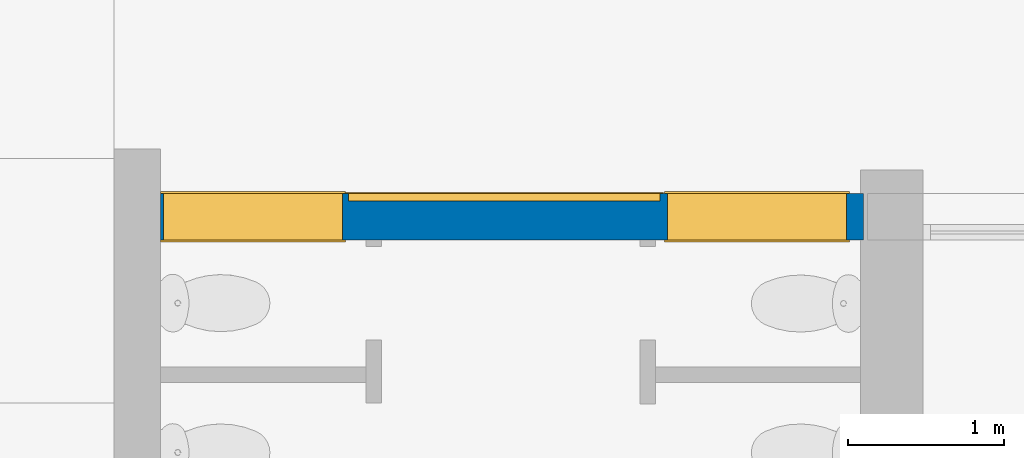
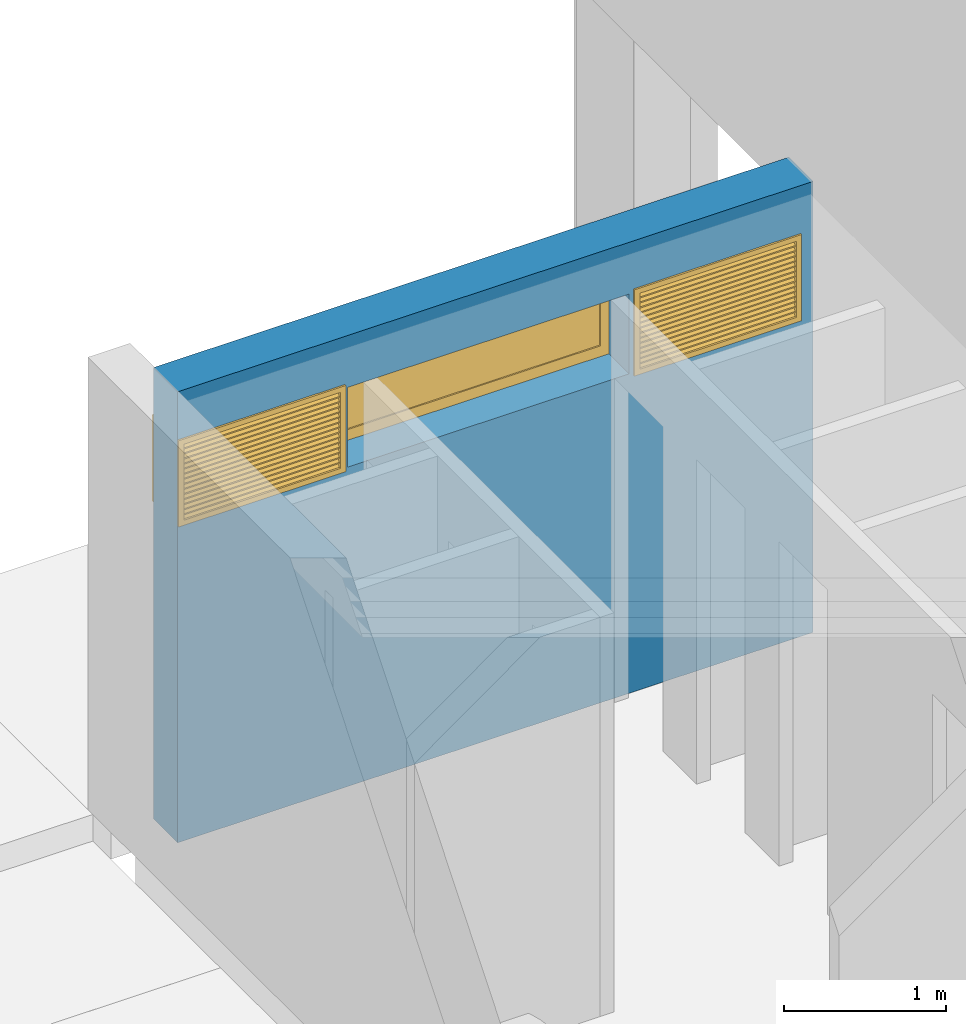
# One storey, part 80 of 117: 3 windows, 1 wall, 3 openings.
"""IFC4 building model written with IfcOpenShell, lengths in metres."""

from ifc_helpers import new_model, entity, si_unit, converted_unit, derived_unit, direction, frame, origin, place, context, subcontext, project, spatial, indexed_curve, outline, extrude, polygons, source, transform, mapped, material, constituent, constituent_set, type_object, type_shapes, element, fill, save


model = new_model("IFC4")

# Units and contexts
model_context = context("Model", 3, precision=1e-05, world=origin(), true_north=direction((6.123031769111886e-17, 1.0)))
body_context = subcontext(model_context, "Body", "Model", "MODEL_VIEW")
ifc_project = project(units=[si_unit("LENGTHUNIT", "METRE"), si_unit("AREAUNIT", "SQUARE_METRE"), si_unit("VOLUMEUNIT", "CUBIC_METRE"), converted_unit("PLANEANGLEUNIT", "DEGREE", entity("IfcRatioMeasure", 0.017453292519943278), si_unit("PLANEANGLEUNIT", "RADIAN"), dimensions=[0, 0, 0, 0, 0, 0, 0]), si_unit("MASSUNIT", "GRAM", prefix="KILO"), derived_unit("MASSDENSITYUNIT", [(si_unit("MASSUNIT", "GRAM", prefix="KILO"), 1), (si_unit("LENGTHUNIT", "METRE"), -3)]), derived_unit("MOMENTOFINERTIAUNIT", [(si_unit("LENGTHUNIT", "METRE"), 4)]), si_unit("TIMEUNIT", "SECOND"), si_unit("FREQUENCYUNIT", "HERTZ"), si_unit("THERMODYNAMICTEMPERATUREUNIT", "DEGREE_CELSIUS"), derived_unit("THERMALTRANSMITTANCEUNIT", [(si_unit("MASSUNIT", "GRAM", prefix="KILO"), 1), (si_unit("THERMODYNAMICTEMPERATUREUNIT", "KELVIN"), -1), (si_unit("TIMEUNIT", "SECOND"), -3)]), derived_unit("VOLUMETRICFLOWRATEUNIT", [(si_unit("LENGTHUNIT", "METRE"), 3), (si_unit("TIMEUNIT", "SECOND"), -1)]), derived_unit("MASSFLOWRATEUNIT", [(si_unit("MASSUNIT", "GRAM", prefix="KILO"), 1), (si_unit("TIMEUNIT", "SECOND"), -1)]), derived_unit("ROTATIONALFREQUENCYUNIT", [(si_unit("TIMEUNIT", "SECOND"), -1)]), si_unit("ELECTRICCURRENTUNIT", "AMPERE"), si_unit("ELECTRICVOLTAGEUNIT", "VOLT"), si_unit("POWERUNIT", "WATT"), si_unit("FORCEUNIT", "NEWTON", prefix="KILO"), si_unit("ILLUMINANCEUNIT", "LUX"), si_unit("LUMINOUSFLUXUNIT", "LUMEN"), si_unit("LUMINOUSINTENSITYUNIT", "CANDELA"), derived_unit("USERDEFINED", [(si_unit("MASSUNIT", "GRAM", prefix="KILO"), -1), (si_unit("LENGTHUNIT", "METRE"), -2), (si_unit("TIMEUNIT", "SECOND"), 3), (si_unit("LUMINOUSFLUXUNIT", "LUMEN"), 1)]), derived_unit("SOUNDPOWERUNIT", [(si_unit("MASSUNIT", "GRAM", prefix="KILO"), 1), (si_unit("LENGTHUNIT", "METRE"), 2), (si_unit("TIMEUNIT", "SECOND"), -3)]), derived_unit("SOUNDPRESSUREUNIT", [(si_unit("MASSUNIT", "GRAM", prefix="KILO"), 1), (si_unit("LENGTHUNIT", "METRE"), -1), (si_unit("TIMEUNIT", "SECOND"), -2)]), derived_unit("LINEARVELOCITYUNIT", [(si_unit("LENGTHUNIT", "METRE"), 1), (si_unit("TIMEUNIT", "SECOND"), -1)]), si_unit("PRESSUREUNIT", "PASCAL"), derived_unit("USERDEFINED", [(si_unit("LENGTHUNIT", "METRE"), -2), (si_unit("MASSUNIT", "GRAM", prefix="KILO"), 1), (si_unit("TIMEUNIT", "SECOND"), -2)]), derived_unit("LINEARFORCEUNIT", [(si_unit("MASSUNIT", "GRAM", prefix="KILO"), 1), (si_unit("LENGTHUNIT", "METRE"), 1), (si_unit("TIMEUNIT", "SECOND"), -2), (si_unit("LENGTHUNIT", "METRE"), -1)]), derived_unit("PLANARFORCEUNIT", [(si_unit("MASSUNIT", "GRAM", prefix="KILO"), 1), (si_unit("LENGTHUNIT", "METRE"), 1), (si_unit("TIMEUNIT", "SECOND"), -2), (si_unit("LENGTHUNIT", "METRE"), -2)])], contexts=[model_context])

# Site, building, storey
site_placement = place(None, origin())
site = spatial("IfcSite", under=ifc_project, at=site_placement, Name="Superficie", CompositionType="ELEMENT")
building_placement = place(site_placement, origin())
building = spatial("IfcBuilding", under=site, at=building_placement, CompositionType="ELEMENT")
storey_placement = place(building_placement, origin())
storey = spatial("IfcBuildingStorey", under=building, at=storey_placement, Name="Nivel 0", CompositionType="ELEMENT", Elevation=0.0)

# Wall, openings, windows
ifc_material_1 = material(Name="Muro por defecto", Category="Varios")
wall_type = type_object("IfcWallType", Name="Muro básico:Por defecto - 30 cm", PredefinedType="STANDARD")
wall_placement = place(storey_placement, frame((-27.543200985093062, 12.720829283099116, 0.0)))
wall = element("IfcWall", 1, at=wall_placement, inside=storey, type_object=wall_type, material=ifc_material_1, Name="Muro básico:Por defecto - 30 cm", ObjectType="Muro básico:Por defecto - 30 cm", PredefinedType="NOTDEFINED", context=body_context, shape_type="Tessellation", body=[
    polygons([(-1.689169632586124e-17, -0.15000000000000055, 0.0), (1.3200000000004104, -0.15000000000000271, 0.0), (1.4200000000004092, -0.15000000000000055, 0.0), (3.07999999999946, -0.15000000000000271, 0.0), (3.179999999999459, -0.15000000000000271, 0.0), (4.517499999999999, -0.15000000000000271, 0.0), (4.517499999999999, -0.15000000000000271, 3.3891438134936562), (-1.689169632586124e-17, -0.15000000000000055, 3.3891438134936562), (3.2089499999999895, -0.15000000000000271, 2.3999999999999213), (1.208949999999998, -0.15000000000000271, 2.3999999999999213), (1.208949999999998, -0.15000000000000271, 2.9999999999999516), (3.208949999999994, -0.15000000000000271, 2.9999999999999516), (0.018949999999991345, -0.15000000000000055, 2.3999999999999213), (0.018949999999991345, -0.15000000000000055, 3.0095999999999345), (1.1689499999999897, -0.15000000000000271, 3.0095999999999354), (1.1689499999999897, -0.15000000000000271, 2.3999999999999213), (3.2589499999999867, -0.15000000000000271, 2.3999999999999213), (3.2589499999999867, -0.15000000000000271, 3.0095999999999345), (4.408949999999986, -0.15000000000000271, 3.0095999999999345), (4.408949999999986, -0.15000000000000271, 2.3999999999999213), (4.517499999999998, 0.14999999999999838, 0.0), (-9.476204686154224e-16, 0.15000000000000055, 0.0), (-9.476204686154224e-16, 0.15000000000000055, 3.3891438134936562), (4.517499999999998, 0.14999999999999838, 3.3891438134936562), (3.2089499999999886, 0.14999999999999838, 2.3999999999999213), (3.2089499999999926, 0.14999999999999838, 2.9999999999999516), (1.208949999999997, 0.14999999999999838, 2.9999999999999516), (1.208949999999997, 0.14999999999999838, 2.3999999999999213), (0.018949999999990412, 0.15000000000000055, 3.0095999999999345), (0.018949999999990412, 0.15000000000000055, 2.3999999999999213), (1.1689499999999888, 0.14999999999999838, 2.3999999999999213), (1.1689499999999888, 0.14999999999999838, 3.0095999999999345), (3.2589499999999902, 0.14999999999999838, 3.0095999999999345), (3.2589499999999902, 0.14999999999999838, 2.3999999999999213), (4.408949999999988, 0.14999999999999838, 2.3999999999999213), (4.408949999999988, 0.14999999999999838, 3.0095999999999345)], [[[1, 2, 3, 4, 5, 6, 7, 8], [9, 10, 11, 12], [13, 14, 15, 16], [17, 18, 19, 20]], [[21, 22, 23, 24], [25, 26, 27, 28], [29, 30, 31, 32], [33, 34, 35, 36]], [[6, 5, 4, 3, 2, 1, 22, 21]], [[7, 6, 21, 24]], [[8, 7, 24, 23]], [[1, 8, 23, 22]], [[26, 25, 9, 12]], [[27, 26, 12, 11]], [[28, 27, 11, 10]], [[25, 28, 10, 9]], [[29, 14, 13, 30]], [[30, 13, 16, 31]], [[31, 16, 15, 32]], [[14, 29, 32, 15]], [[17, 34, 33, 18]], [[34, 17, 20, 35]], [[35, 20, 19, 36]], [[18, 33, 36, 19]]], closed=True),
])
opening_1_placement = place(wall_placement, frame((3.2089499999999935, 0.14999999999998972, 2.3999999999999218)))
opening_1 = element("IfcOpeningElement", 2, at=opening_1_placement, cuts=wall, Name="Ventana simple fija con cubrejuntas interior:0.6 x 2.05mm 2:1", PredefinedType="OPENING", context=body_context, shape_type="SweptSolid", body=[
    extrude(outline(indexed_curve([(0.0, -5.8120598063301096e-30), (0.6000000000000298, -5.8120598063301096e-30), (0.6000000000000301, 1.9999999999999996), (0.0, 1.9999999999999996), (0.0, -5.8120598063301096e-30)], self_intersect=False)), frame((0.0, 0.0, 0.0), z_axis=(0.0, -1.0, 0.0), x_axis=(0.0, 0.0, 1.0)), (0.0, 0.0, 1.0), 0.30000000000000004),
])
opening_2_placement = place(wall_placement, frame((1.1689499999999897, 0.14999999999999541, 2.3999999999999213)))
opening_2 = element("IfcOpeningElement", 3, at=opening_2_placement, cuts=wall, Name="Deflector de ventilación simple:60 x 1.15mm 2:1", PredefinedType="OPENING", context=body_context, shape_type="SweptSolid", body=[
    extrude(outline(indexed_curve([(0.6096000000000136, 1.1499999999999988), (0.0, 1.1499999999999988), (0.0, -8.679644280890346e-30), (0.6096000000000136, -8.679644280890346e-30), (0.6096000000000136, 1.1499999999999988)], self_intersect=False)), frame((0.0, 0.0, 0.0), z_axis=(0.0, -1.0, 0.0), x_axis=(0.0, 0.0, 1.0)), (0.0, 0.0, 1.0), 0.30000000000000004),
])
opening_3_placement = place(wall_placement, frame((4.408949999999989, 0.14999999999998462, 2.3999999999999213)))
opening_3 = element("IfcOpeningElement", 4, at=opening_3_placement, cuts=wall, Name="Deflector de ventilación simple:60 x 1.15mm 2:1", PredefinedType="OPENING", context=body_context, shape_type="SweptSolid", body=[
    extrude(outline(indexed_curve([(0.6096000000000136, 1.1499999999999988), (0.0, 1.1499999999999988), (0.0, -8.786800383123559e-30), (0.6096000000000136, -8.786800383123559e-30), (0.6096000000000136, 1.1499999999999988)], self_intersect=False)), frame((0.0, 0.0, 0.0), z_axis=(0.0, -1.0, 0.0), x_axis=(0.0, 0.0, 1.0)), (0.0, 0.0, 1.0), 0.30000000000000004),
])
ifc_material_2 = material(Name="Madera - Abedul", Category="Madera")
window_type_1 = type_object("IfcWindowType", Name="Deflector de ventilación simple:60 x 1.15mm 2", PartitioningType="NOTDEFINED", PredefinedType="WINDOW", material=ifc_material_2)
shared_shape_1 = source(origin(), body_context, "Body", "SweptSolid", [
    extrude(outline(indexed_curve([(-0.593949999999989, -0.3237500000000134), (0.593949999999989, -0.3237500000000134), (0.593949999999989, 0.3237500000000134), (-0.593949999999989, 0.3237500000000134), (-0.593949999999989, -0.3237500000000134)], self_intersect=False), holes=[indexed_curve([(-0.5559500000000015, -0.28575000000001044), (-0.5559500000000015, 0.28575000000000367), (0.5559499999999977, 0.28575000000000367), (0.5559499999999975, -0.28575000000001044), (-0.5559500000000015, -0.28575000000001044)], self_intersect=False)]), frame((0.5750000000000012, 0.3000000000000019, 0.30480000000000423), z_axis=(0.0, 1.0, 0.0), x_axis=(1.0, 0.0, 0.0)), (0.0, 0.0, 1.0), 0.012999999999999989),
    extrude(outline(indexed_curve([(-0.3237500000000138, -0.5939499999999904), (0.3237500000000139, -0.5939499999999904), (0.3237500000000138, 0.5939499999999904), (-0.3237500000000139, 0.5939499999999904), (-0.3237500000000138, -0.5939499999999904)], self_intersect=False), holes=[indexed_curve([(-0.2857500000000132, -0.5559499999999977), (-0.2857500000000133, 0.5559499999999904), (0.28575000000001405, 0.5559499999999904), (0.28575000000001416, -0.5559499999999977), (-0.2857500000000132, -0.5559499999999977)], self_intersect=False)]), frame((0.5750000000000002, -0.012999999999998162, 0.30480000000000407), z_axis=(0.0, 1.0, 0.0), x_axis=(0.0, 0.0, -1.0)), (0.0, 0.0, 1.0), 0.012999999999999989),
    extrude(outline(indexed_curve([(-0.3048000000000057, -0.575), (0.3048000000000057, -0.575), (0.3048000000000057, 0.575), (-0.3048000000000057, 0.575), (-0.3048000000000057, -0.575)], self_intersect=False), holes=[indexed_curve([(-0.2857500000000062, -0.5559499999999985), (-0.2857500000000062, 0.5559500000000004), (0.2857500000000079, 0.5559500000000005), (0.2857500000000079, -0.5559499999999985), (-0.2857500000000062, -0.5559499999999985)], self_intersect=False)]), frame((0.5750000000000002, 0.0, 0.3048000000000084), z_axis=(0.0, 1.0, 0.0), x_axis=(0.0, 0.0, -1.0)), (0.0, 0.0, 1.0), 0.30000000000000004),
    extrude(outline(indexed_curve([(-0.0201083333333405, -0.02010833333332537), (0.030691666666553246, -0.020108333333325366), (0.0370416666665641, -0.013758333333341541), (-0.01375833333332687, -0.013758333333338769), (-0.013758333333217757, 0.03704166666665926), (-0.020108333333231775, 0.030691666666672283), (-0.0201083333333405, -0.02010833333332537)], self_intersect=False)), frame((0.019050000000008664, 0.2640789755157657, 0.5598335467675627), z_axis=(1.0, 0.0, 0.0), x_axis=(0.0, -0.7071067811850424, -0.7071067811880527)), (0.0, 0.0, 1.0), 1.1118999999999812),
    extrude(outline(indexed_curve([(-0.017991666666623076, -0.017991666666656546), (0.03280833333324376, -0.01799166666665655), (0.02645833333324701, -0.011641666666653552), (-0.011641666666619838, -0.01164166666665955), (-0.011641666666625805, 0.026458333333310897), (-0.017991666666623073, 0.032808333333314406), (-0.017991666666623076, -0.017991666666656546)], self_intersect=False)), frame((0.019050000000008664, 0.2640789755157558, 0.029526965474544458), z_axis=(1.0, 0.0, 0.0), x_axis=(0.0, -0.7071067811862, -0.7071067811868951)), (0.0, 0.0, 1.0), 1.1118999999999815),
    extrude(outline(indexed_curve([(-0.020108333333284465, -0.020108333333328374), (0.03069166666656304, -0.020108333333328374), (0.037041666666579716, -0.01375833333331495), (-0.01375833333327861, -0.013758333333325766), (-0.013758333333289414, 0.037041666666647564), (-0.020108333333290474, 0.03069166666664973), (-0.020108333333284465, -0.020108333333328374)], self_intersect=False)), frame((0.019050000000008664, 0.26407897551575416, 0.06463354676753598), z_axis=(1.0, 0.0, 0.0), x_axis=(0.0, -0.7071067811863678, -0.7071067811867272)), (0.0, 0.0, 1.0), 1.1118999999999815),
    extrude(outline(indexed_curve([(-0.02010833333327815, -0.020108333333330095), (0.030691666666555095, -0.020108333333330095), (0.037041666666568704, -0.013758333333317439), (-0.013758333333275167, -0.013758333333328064), (-0.01375833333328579, 0.03704166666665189), (-0.020108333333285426, 0.030691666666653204), (-0.02010833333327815, -0.020108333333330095)], self_intersect=False)), frame((0.019050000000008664, 0.2640789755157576, 0.1027335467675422), z_axis=(1.0, 0.0, 0.0), x_axis=(0.0, -0.7071067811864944, -0.7071067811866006)), (0.0, 0.0, 1.0), 1.1118999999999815),
    extrude(outline(indexed_curve([(-0.020108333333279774, -0.020108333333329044), (0.030691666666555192, -0.020108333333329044), (0.03704166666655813, -0.013758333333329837), (-0.013758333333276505, -0.013758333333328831), (-0.013758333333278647, 0.0370416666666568), (-0.02010833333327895, 0.030691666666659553), (-0.020108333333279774, -0.020108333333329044)], self_intersect=False)), frame((0.019050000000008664, 0.2640789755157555, 0.14083354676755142), z_axis=(1.0, 0.0, 0.0), x_axis=(0.0, -0.7071067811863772, -0.7071067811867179)), (0.0, 0.0, 1.0), 1.1118999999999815),
    extrude(outline(indexed_curve([(-0.020108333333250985, -0.020108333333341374), (0.030691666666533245, -0.020108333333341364), (0.03704166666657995, -0.013758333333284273), (-0.013758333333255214, -0.013758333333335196), (-0.0137583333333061, 0.03704166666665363), (-0.02010833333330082, 0.030691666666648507), (-0.020108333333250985, -0.020108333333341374)], self_intersect=False)), frame((0.019050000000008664, 0.26407897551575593, 0.17893354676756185), z_axis=(1.0, 0.0, 0.0), x_axis=(0.0, -0.7071067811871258, -0.7071067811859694)), (0.0, 0.0, 1.0), 1.1118999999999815),
    extrude(outline(indexed_curve([(-0.020108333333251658, -0.020108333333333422), (0.030691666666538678, -0.02010833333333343), (0.037041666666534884, -0.01375833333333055), (-0.013758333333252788, -0.013758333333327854), (-0.013758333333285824, 0.03704166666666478), (-0.020108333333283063, 0.030691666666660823), (-0.020108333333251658, -0.020108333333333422)], self_intersect=False)), frame((0.019050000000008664, 0.2640789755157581, 0.21703354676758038), z_axis=(1.0, 0.0, 0.0), x_axis=(0.0, -0.7071067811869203, -0.7071067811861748)), (0.0, 0.0, 1.0), 1.1118999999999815),
    extrude(outline(indexed_curve([(-0.020108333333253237, -0.020108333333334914), (0.030691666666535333, -0.020108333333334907), (0.037041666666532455, -0.013758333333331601), (-0.013758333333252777, -0.01375833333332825), (-0.013758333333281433, 0.03704166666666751), (-0.02010833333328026, 0.030691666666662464), (-0.020108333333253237, -0.020108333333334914)], self_intersect=False)), frame((0.019050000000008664, 0.26407897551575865, 0.2551335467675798), z_axis=(1.0, 0.0, 0.0), x_axis=(0.0, -0.7071067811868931, -0.707106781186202)), (0.0, 0.0, 1.0), 1.1118999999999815),
    extrude(outline(indexed_curve([(-0.020108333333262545, -0.02010833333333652), (0.030691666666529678, -0.02010833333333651), (0.037041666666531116, -0.01375833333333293), (-0.01375833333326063, -0.01375833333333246), (-0.013758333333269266, 0.03704166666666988), (-0.020108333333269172, 0.030691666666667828), (-0.020108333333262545, -0.02010833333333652)], self_intersect=False)), frame((0.019050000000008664, 0.2640789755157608, 0.29323354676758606), z_axis=(1.0, 0.0, 0.0), x_axis=(0.0, -0.7071067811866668, -0.7071067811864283)), (0.0, 0.0, 1.0), 1.1118999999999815),
    extrude(outline(indexed_curve([(-0.020108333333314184, -0.020108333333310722), (0.030691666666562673, -0.020108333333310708), (0.03704166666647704, -0.0137583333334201), (-0.013758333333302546, -0.013758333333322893), (-0.01375833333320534, 0.03704166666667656), (-0.02010833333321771, 0.03069166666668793), (-0.020108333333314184, -0.020108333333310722)], self_intersect=False)), frame((0.019050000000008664, 0.2640789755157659, 0.3313335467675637), z_axis=(1.0, 0.0, 0.0), x_axis=(0.0, -0.7071067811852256, -0.7071067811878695)), (0.0, 0.0, 1.0), 1.1118999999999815),
    extrude(outline(indexed_curve([(-0.020108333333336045, -0.02010833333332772), (0.030691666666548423, -0.02010833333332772), (0.03704166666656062, -0.013758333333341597), (-0.013758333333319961, -0.013758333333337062), (-0.01375833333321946, 0.03704166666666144), (-0.02010833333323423, 0.03069166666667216), (-0.020108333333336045, -0.02010833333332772)], self_intersect=False)), frame((0.019050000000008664, 0.2640789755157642, 0.3694335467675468), z_axis=(1.0, 0.0, 0.0), x_axis=(0.0, -0.7071067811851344, -0.7071067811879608)), (0.0, 0.0, 1.0), 1.1118999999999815),
    extrude(outline(indexed_curve([(-0.020108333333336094, -0.020108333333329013), (0.030691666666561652, -0.02010833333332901), (0.03704166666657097, -0.01375833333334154), (-0.013758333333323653, -0.013758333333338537), (-0.013758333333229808, 0.03704166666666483), (-0.020108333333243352, 0.03069166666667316), (-0.020108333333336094, -0.020108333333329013)], self_intersect=False)), frame((0.019050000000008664, 0.26407897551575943, 0.4075335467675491), z_axis=(1.0, 0.0, 0.0), x_axis=(0.0, -0.7071067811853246, -0.7071067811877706)), (0.0, 0.0, 1.0), 1.1118999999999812),
    extrude(outline(indexed_curve([(-0.02010833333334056, -0.020108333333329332), (0.03069166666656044, -0.020108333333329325), (0.03704166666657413, -0.013758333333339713), (-0.013758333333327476, -0.013758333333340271), (-0.013758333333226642, 0.037041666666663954), (-0.020108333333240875, 0.03069166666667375), (-0.02010833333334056, -0.020108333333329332)], self_intersect=False)), frame((0.019050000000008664, 0.26407897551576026, 0.4456335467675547), z_axis=(1.0, 0.0, 0.0), x_axis=(0.0, -0.70710678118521, -0.7071067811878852)), (0.0, 0.0, 1.0), 1.1118999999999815),
    extrude(outline(indexed_curve([(-0.020108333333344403, -0.02010833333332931), (0.030691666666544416, -0.02010833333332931), (0.037041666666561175, -0.013758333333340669), (-0.013758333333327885, -0.013758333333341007), (-0.013758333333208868, 0.03704166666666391), (-0.020108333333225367, 0.030691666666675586), (-0.020108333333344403, -0.02010833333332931)], self_intersect=False)), frame((0.019050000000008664, 0.26407897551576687, 0.4837335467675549), z_axis=(1.0, 0.0, 0.0), x_axis=(0.0, -0.7071067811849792, -0.707106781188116)), (0.0, 0.0, 1.0), 1.1118999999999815),
    extrude(outline(indexed_curve([(-0.02002144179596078, -0.020077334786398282), (0.030707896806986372, -0.020077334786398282), (0.03704903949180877, -0.013718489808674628), (-0.013750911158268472, -0.013789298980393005), (-0.013821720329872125, 0.037010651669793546), (-0.020162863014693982, 0.030651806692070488), (-0.02002144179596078, -0.020077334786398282)], self_intersect=False)), frame((0.019050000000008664, 0.26407897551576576, 0.5218168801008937), z_axis=(1.0, 0.0, 0.0), x_axis=(0.0, -0.7080917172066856, -0.7061204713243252)), (0.0, 0.0, 1.0), 1.1118999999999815),
])
type_shapes(window_type_1, [shared_shape_1])
window_1_placement = place(opening_3_placement, frame((0.0, 0.0, 0.0), z_axis=(0.0, 0.0, 1.0), x_axis=(-1.0, 0.0, 0.0)))
window_1 = element("IfcWindow", 5, at=window_1_placement, inside=storey, type_object=window_type_1, material=ifc_material_2, Name="Deflector de ventilación simple:60 x 1.15mm 2", ObjectType="Deflector de ventilación simple:60 x 1.15mm 2", OverallHeight=0.6096000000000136, OverallWidth=1.1499999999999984, PartitioningType="NOTDEFINED", PredefinedType="WINDOW", context=body_context, shape_type="MappedRepresentation", body=[
    mapped(shared_shape_1, transform((0.0, 0.0, 0.0), scale=1.0)),
])
fill(opening_3, window_1)
window_2_placement = place(opening_2_placement, frame((0.0, 0.0, 0.0), z_axis=(0.0, 0.0, 1.0), x_axis=(-1.0, 0.0, 0.0)))
window_2 = element("IfcWindow", 6, at=window_2_placement, inside=storey, type_object=window_type_1, material=ifc_material_2, Name="Deflector de ventilación simple:60 x 1.15mm 2", ObjectType="Deflector de ventilación simple:60 x 1.15mm 2", OverallHeight=0.6096000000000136, OverallWidth=1.1499999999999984, PartitioningType="NOTDEFINED", PredefinedType="WINDOW", context=body_context, shape_type="MappedRepresentation", body=[
    mapped(shared_shape_1, transform((0.0, 0.0, 0.0), scale=1.0)),
])
fill(opening_2, window_2)
ifc_material_3 = material(Name="Madera - Castaño", Category="Madera")
ifc_constituent_1 = constituent(ifc_material_3, Name="Madera - Castaño", Category="Madera")
ifc_material_4 = material(Name="Vidrio", Category="Vidrio")
ifc_constituent_2 = constituent(ifc_material_4, Name="Vidrio", Category="Vidrio")
ifc_constituent_set_1 = constituent_set(constituents=[ifc_constituent_1, ifc_constituent_2], Name="MaterialConstituentSet")
ifc_constituent_3 = constituent(ifc_material_3, Name="Marco/montante", Category="Madera")
ifc_constituent_4 = constituent(ifc_material_4, Name="Cristal", Category="Vidrio")
ifc_constituent_set_2 = constituent_set(constituents=[ifc_constituent_3, ifc_constituent_4], Name="MaterialConstituentSet")
window_type_2 = type_object("IfcWindowType", Name="Ventana simple fija con cubrejuntas interior:0.6 x 2.05mm 2", PartitioningType="NOTDEFINED", PredefinedType="WINDOW", material=ifc_constituent_set_2)
shared_shape_2 = source(origin(), body_context, "Body", "Tessellation", [
    polygons([(2.0000000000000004, 0.05, 0.5999999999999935), (2.0, 0.0, 0.5999999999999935), (2.0, -6.497202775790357e-15, -6.767919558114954e-16), (2.0, 0.049999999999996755, -6.767919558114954e-16), (2.707167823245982e-16, 0.0, 0.5999999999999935), (0.0, -4.331468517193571e-15, -6.767919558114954e-16), (0.03500000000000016, 0.0, 0.5649999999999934), (1.965, 0.0, 0.5649999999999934), (1.965, 0.0, 0.055000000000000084), (0.03500000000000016, 0.0, 0.055000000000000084), (0.0, 0.05, -6.767919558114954e-16), (0.0, 0.05, 0.5999999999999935), (1.9400000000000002, 0.05, 0.5399999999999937), (0.059999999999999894, 0.05, 0.5399999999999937), (0.059999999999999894, 0.05, 0.07999999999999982), (1.9400000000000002, 0.05, 0.07999999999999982), (1.9400000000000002, 0.03999999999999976, 0.5399999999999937), (1.9400000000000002, 0.03999999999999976, 0.07999999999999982), (0.059999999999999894, 0.03999999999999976, 0.07999999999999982), (0.059999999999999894, 0.03999999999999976, 0.5399999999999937), (1.965, 0.03999999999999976, 0.5649999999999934), (0.03500000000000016, 0.03999999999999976, 0.5649999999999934), (0.03500000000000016, 0.03999999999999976, 0.055000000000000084), (1.965, 0.03999999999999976, 0.055000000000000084)], [[[1, 2, 3, 4]], [[3, 2, 5, 6], [7, 8, 9, 10]], [[6, 11, 4, 3]], [[11, 12, 1, 4], [13, 14, 15, 16]], [[17, 13, 16, 18]], [[18, 16, 15, 19]], [[21, 22, 23, 24], [20, 17, 18, 19]], [[8, 21, 24, 9]], [[9, 24, 23, 10]], [[14, 20, 19, 15]], [[22, 7, 10, 23]], [[5, 12, 11, 6]], [[12, 5, 2, 1]], [[20, 14, 13, 17]], [[7, 22, 21, 8]]], closed=True),
    polygons([(1.940000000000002, -1.852717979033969e-14, 0.5399999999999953), (1.940000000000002, 0.02600000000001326, 0.5399999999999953), (1.9400000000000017, 0.02600000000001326, 0.07999999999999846), (1.9400000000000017, -1.852717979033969e-14, 0.07999999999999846), (1.9650000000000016, 0.026000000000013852, 0.5649999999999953), (1.9650000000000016, 0.026000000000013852, 0.05499999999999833), (0.034999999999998, 0.026000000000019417, 0.05499999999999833), (0.03499999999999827, 0.0260000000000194, 0.5649999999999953), (0.05999999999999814, 0.02600000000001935, 0.5399999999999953), (0.05999999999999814, 0.02600000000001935, 0.0799999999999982), (0.05999999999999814, -1.3079004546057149e-14, 0.0799999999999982), (0.059999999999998, -1.3079004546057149e-14, 0.5399999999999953), (0.03499999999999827, -1.3045164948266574e-14, 0.5649999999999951), (0.03499999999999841, -1.3045164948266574e-14, 0.05499999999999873), (1.965000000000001, -1.9288570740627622e-14, 0.05499999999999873), (1.9650000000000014, -1.9288570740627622e-14, 0.5649999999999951)], [[[1, 2, 3, 4]], [[5, 6, 7, 8], [9, 10, 3, 2]], [[4, 3, 10, 11]], [[13, 14, 15, 16], [1, 4, 11, 12]], [[5, 16, 15, 6]], [[6, 15, 14, 7]], [[11, 10, 9, 12]], [[7, 14, 13, 8]], [[12, 9, 2, 1]], [[8, 13, 16, 5]]], closed=True),
    polygons([(0.04500000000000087, 0.026000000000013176, 0.06499999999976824), (0.04500000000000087, 0.04000000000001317, 0.06499999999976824), (1.9549999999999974, 0.04000000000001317, 0.06499999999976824), (1.9549999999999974, 0.026000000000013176, 0.06499999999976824), (0.04500000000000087, 0.026000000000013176, 0.5549999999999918), (0.04500000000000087, 0.04000000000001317, 0.5549999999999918), (1.9549999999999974, 0.04000000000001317, 0.5549999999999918), (1.9549999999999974, 0.026000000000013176, 0.5549999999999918)], [[[1, 2, 3, 4]], [[5, 6, 2, 1]], [[6, 7, 3, 2]], [[7, 8, 4, 3]], [[8, 5, 1, 4]], [[5, 8, 7, 6]]], closed=True),
    polygons([(1.9899999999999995, -0.004999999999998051, 0.5899999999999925), (1.9899999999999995, -1.6919798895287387e-17, 0.5899999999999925), (1.9899999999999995, -1.6919798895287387e-17, 0.010000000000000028), (1.9899999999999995, -0.004999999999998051, 0.010000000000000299), (2.0249999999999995, -1.6919798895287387e-17, 0.6249999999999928), (2.0249999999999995, -1.6919798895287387e-17, -0.025000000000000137), (-0.02499999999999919, -1.6919798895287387e-17, -0.024999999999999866), (-0.02499999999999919, -1.6919798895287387e-17, 0.6249999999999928), (0.010000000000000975, -1.6919798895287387e-17, 0.5899999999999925), (0.010000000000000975, -1.6919798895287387e-17, 0.010000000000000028), (0.010000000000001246, -0.004999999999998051, 0.010000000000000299), (0.010000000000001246, -0.004999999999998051, 0.5899999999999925), (-0.02499999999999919, -0.004999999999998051, 0.6249999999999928), (-0.02499999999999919, -0.004999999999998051, -0.024999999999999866), (2.0249999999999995, -0.004999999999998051, -0.025000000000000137), (2.0249999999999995, -0.004999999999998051, 0.6249999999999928)], [[[1, 2, 3, 4]], [[5, 6, 7, 8], [9, 10, 3, 2]], [[4, 3, 10, 11]], [[13, 14, 15, 16], [1, 4, 11, 12]], [[5, 16, 15, 6]], [[6, 15, 14, 7]], [[11, 10, 9, 12]], [[7, 14, 13, 8]], [[12, 9, 2, 1]], [[8, 13, 16, 5]]], closed=True),
])
type_shapes(window_type_2, [shared_shape_2])
window_3_placement = place(opening_1_placement, frame((0.0, 0.0, 0.0), z_axis=(0.0, 0.0, 1.0), x_axis=(-1.0, 0.0, 0.0)))
window_3 = element("IfcWindow", 7, at=window_3_placement, inside=storey, type_object=window_type_2, material=ifc_constituent_set_1, Name="Ventana simple fija con cubrejuntas interior:0.6 x 2.05mm 2", ObjectType="Ventana simple fija con cubrejuntas interior:0.6 x 2.05mm 2", OverallHeight=0.6000000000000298, OverallWidth=2.0, PartitioningType="NOTDEFINED", PredefinedType="WINDOW", context=body_context, shape_type="MappedRepresentation", body=[
    mapped(shared_shape_2, transform((0.0, 0.0, 0.0), scale=1.0)),
])
fill(opening_1, window_3)

save(model, "model.ifc")
